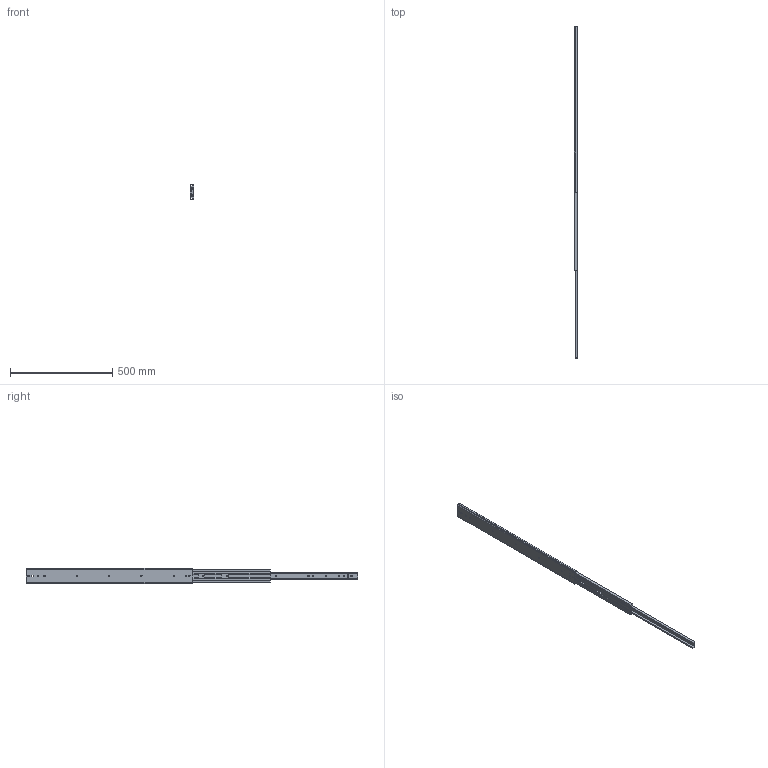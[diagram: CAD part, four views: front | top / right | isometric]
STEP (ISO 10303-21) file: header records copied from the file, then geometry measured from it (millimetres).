
FILE_DESCRIPTION(/* description */ ('Unknown'),/* implementation_level */ '2;1');
FILE_NAME(/* name */ '76J01-32 open',/* time_stamp */ '2024-07-26T16:04:49+08:00',/* author */ ('Unknown'),/* organization */ ('Unknown'),/* preprocessor_version */ 'ST-DEVELOPER v18.104',/* originating_system */ 'Solid Edge',/* authorisation */ 'Unknown');
FILE_SCHEMA (('AUTOMOTIVE_DESIGN {1 0 10303 214 3 1 1}'));
Length unit declared in the file: millimetre
Products named in the file (4): 76J01-32 open; 76J01 32 inch 內_0; 76J01 32 吋中_; 76J01 32 吋
Assembly tree (3 placements, depth 2):
  76J01-32 open
    76J01 32 inch 內_0
    76J01 32 吋中_
    76J01 32 吋
Bounding box: 19.3 x 1624.9 x 76.76 mm (x, y, z)
Volume: 637692 mm3; surface area: 397331.1 mm2
Topology: 3 solids, 3 shells, 192 faces, 591 edges, 399 vertices
Faces by surface type: plane 104, cylinder 88
Full cylindrical faces by diameter (mm): 5.2 x13, 7.1 x2
Entity records: 7028 total; most frequent: CARTESIAN_POINT 1144, DIRECTION 1129, ORIENTED_EDGE 1122, EDGE_CURVE 561, VERTEX_POINT 384, LINE 383, VECTOR 383, AXIS2_PLACEMENT_3D 373
